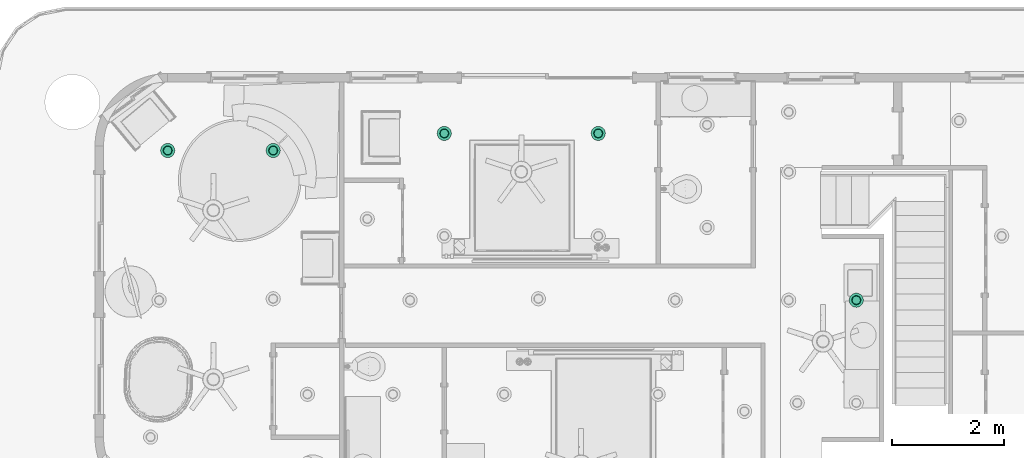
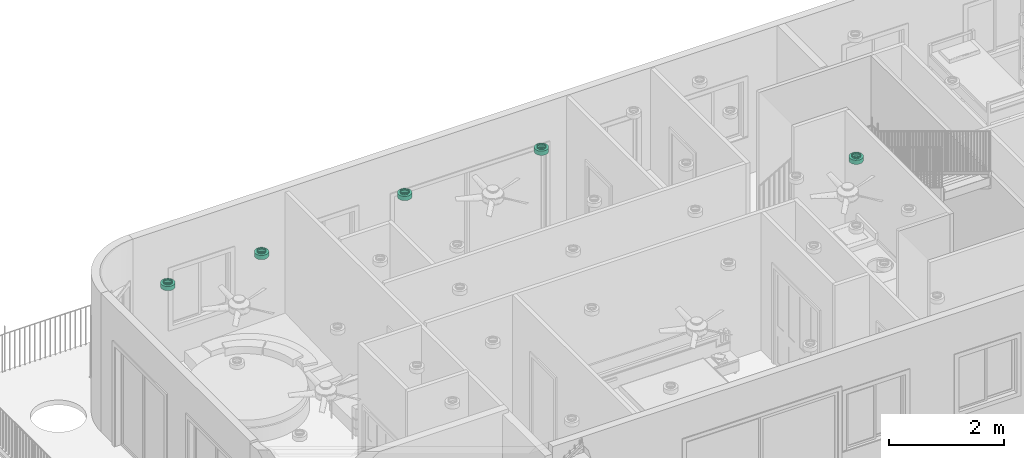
# One storey, part 17 of 28: 5 flow terminals.
"""IFC2X3 building model written with IfcOpenShell, lengths in feet."""

from ifc_helpers import new_model, entity, si_unit, converted_unit, derived_unit, direction, frame, origin, place, context, subcontext, project, spatial, faceted_brep, source, transform, mapped, material, material_list, type_object, type_shapes, element, save


model = new_model("IFC2X3")

# Units and contexts
model_context = context("Model", 3, precision=0.0001, world=origin(), true_north=direction((6.12303176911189e-17, 1.0)))
body_context = subcontext(model_context, "Body", "Model", "MODEL_VIEW")
ifc_project = project(units=[converted_unit("LENGTHUNIT", "FOOT", entity("IfcRatioMeasure", 0.3048), si_unit("LENGTHUNIT", "METRE"), dimensions=[1, 0, 0, 0, 0, 0, 0]), converted_unit("AREAUNIT", "SQUARE FOOT", entity("IfcRatioMeasure", 0.09290304), si_unit("AREAUNIT", "SQUARE_METRE"), dimensions=[2, 0, 0, 0, 0, 0, 0]), converted_unit("VOLUMEUNIT", "CUBIC FOOT", entity("IfcRatioMeasure", 0.028316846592), si_unit("VOLUMEUNIT", "CUBIC_METRE"), dimensions=[3, 0, 0, 0, 0, 0, 0]), converted_unit("PLANEANGLEUNIT", "DEGREE", entity("IfcRatioMeasure", 0.0174532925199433), si_unit("PLANEANGLEUNIT", "RADIAN"), dimensions=[0, 0, 0, 0, 0, 0, 0]), si_unit("MASSUNIT", "GRAM", prefix="KILO"), derived_unit("MASSDENSITYUNIT", [(si_unit("MASSUNIT", "GRAM", prefix="KILO"), 1), (si_unit("LENGTHUNIT", "METRE"), -3)]), si_unit("TIMEUNIT", "SECOND"), si_unit("FREQUENCYUNIT", "HERTZ"), si_unit("THERMODYNAMICTEMPERATUREUNIT", "DEGREE_CELSIUS"), derived_unit("THERMALTRANSMITTANCEUNIT", [(si_unit("MASSUNIT", "GRAM", prefix="KILO"), 1), (si_unit("THERMODYNAMICTEMPERATUREUNIT", "KELVIN"), -1), (si_unit("TIMEUNIT", "SECOND"), -3)]), derived_unit("VOLUMETRICFLOWRATEUNIT", [(si_unit("LENGTHUNIT", "METRE"), 3), (si_unit("TIMEUNIT", "SECOND"), -1)]), si_unit("ELECTRICCURRENTUNIT", "AMPERE"), si_unit("ELECTRICVOLTAGEUNIT", "VOLT"), si_unit("POWERUNIT", "WATT"), si_unit("FORCEUNIT", "NEWTON"), si_unit("ILLUMINANCEUNIT", "LUX"), si_unit("LUMINOUSFLUXUNIT", "LUMEN"), si_unit("LUMINOUSINTENSITYUNIT", "CANDELA"), derived_unit("USERDEFINED", [(si_unit("MASSUNIT", "GRAM", prefix="KILO"), -1), (si_unit("LENGTHUNIT", "METRE"), -2), (si_unit("TIMEUNIT", "SECOND"), 3), (si_unit("LUMINOUSFLUXUNIT", "LUMEN"), 1)]), derived_unit("LINEARVELOCITYUNIT", [(si_unit("LENGTHUNIT", "METRE"), 1), (si_unit("TIMEUNIT", "SECOND"), -1)]), si_unit("PRESSUREUNIT", "PASCAL"), derived_unit("USERDEFINED", [(si_unit("LENGTHUNIT", "METRE"), -2), (si_unit("MASSUNIT", "GRAM", prefix="KILO"), 1), (si_unit("TIMEUNIT", "SECOND"), -2)])], contexts=[model_context])

# Site, building, storey
site_placement = place(None, origin())
site = spatial("IfcSite", under=ifc_project, at=site_placement, Name="表面", CompositionType="ELEMENT")
building_placement = place(site_placement, origin())
building = spatial("IfcBuilding", under=site, at=building_placement, CompositionType="ELEMENT")
storey_placement = place(building_placement, frame((0.0, 0.0, 10.0)))
storey = spatial("IfcBuildingStorey", under=building, at=storey_placement, Name="Level 2", CompositionType="ELEMENT", Elevation=9.99999999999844)

# Flow terminals
ifc_material_1 = material(Name="Metal - Paint Finish - Dark Gray, Matte")
ifc_material_2 = material(Name="Glass - White, High Luminance")
ifc_material_list_1 = material_list([ifc_material_1, ifc_material_2])
ifc_material_list_2 = material_list([ifc_material_1, ifc_material_2])
light_fixture_type = type_object("IfcLightFixtureType", Name="100W - 277V", PredefinedType="NOTDEFINED", material=ifc_material_list_2)
shared_shape = source(origin(), body_context, "Body", "Brep", [
    faceted_brep([(0.557291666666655, 0.187326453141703, 0.374999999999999), (0.598651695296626, 0.245098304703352, 0.374999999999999), (0.558098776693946, 0.218001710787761, 0.374999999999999), (0.629345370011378, 0.247786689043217, 0.374999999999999), (0.517545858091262, 0.190905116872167, 0.374999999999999), (0.468904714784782, 0.155156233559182, 0.374999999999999), (0.625748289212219, 0.285651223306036, 0.374999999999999), (0.65284488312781, 0.326204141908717, 0.374999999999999), (0.676375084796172, 0.329244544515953, 0.374999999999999), (0.6623599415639, 0.374039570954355, 0.374999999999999), (0.671874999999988, 0.42187499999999, 0.374999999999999), (0.692708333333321, 0.421874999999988, 0.374999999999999), (0.676375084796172, 0.514505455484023, 0.374999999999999), (0.662359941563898, 0.469710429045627, 0.374999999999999), (0.652844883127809, 0.517545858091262, 0.374999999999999), (0.629345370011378, 0.595963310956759, 0.374999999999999), (0.625748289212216, 0.558098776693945, 0.374999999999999), (0.598651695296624, 0.598651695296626, 0.374999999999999), (0.557291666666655, 0.656423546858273, 0.374999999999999), (0.55809877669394, 0.625748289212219, 0.374999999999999), (0.517545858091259, 0.65284488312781, 0.374999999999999), (0.468904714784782, 0.688593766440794, 0.374999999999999), (0.469710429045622, 0.662359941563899, 0.374999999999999), (0.421874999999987, 0.671874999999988, 0.374999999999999), (0.374845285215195, 0.688593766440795, 0.374999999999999), (0.374039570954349, 0.662359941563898, 0.374999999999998), (0.326204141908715, 0.652844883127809, 0.374999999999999), (0.286458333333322, 0.656423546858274, 0.374999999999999), (0.285651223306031, 0.625748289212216, 0.374999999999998), (0.245098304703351, 0.598651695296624, 0.374999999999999), (0.214404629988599, 0.59596331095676, 0.374999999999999), (0.218001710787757, 0.558098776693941, 0.374999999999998), (0.190905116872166, 0.51754585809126, 0.374999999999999), (0.167374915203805, 0.514505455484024, 0.374999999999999), (0.181390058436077, 0.469710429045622, 0.374999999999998), (0.171874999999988, 0.421874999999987, 0.374999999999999), (0.151041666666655, 0.421874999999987, 0.374999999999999), (0.167374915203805, 0.329244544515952, 0.374999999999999), (0.181390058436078, 0.374039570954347, 0.374999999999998), (0.190905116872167, 0.326204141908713, 0.374999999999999), (0.214404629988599, 0.247786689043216, 0.374999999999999), (0.218001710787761, 0.28565122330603, 0.374999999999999), (0.245098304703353, 0.245098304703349, 0.374999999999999), (0.286458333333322, 0.187326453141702, 0.374999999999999), (0.285651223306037, 0.218001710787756, 0.374999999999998), (0.326204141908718, 0.190905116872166, 0.374999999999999), (0.374845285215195, 0.155156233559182, 0.374999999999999), (0.42187499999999, 0.171874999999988, 0.374999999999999), (0.374039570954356, 0.181390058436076, 0.374999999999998), (0.469710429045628, 0.181390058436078, 0.374999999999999), (0.557291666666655, 0.656423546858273, 0.291666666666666), (0.598651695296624, 0.598651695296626, 0.291666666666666), (0.55809877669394, 0.625748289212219, 0.291666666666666), (0.629345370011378, 0.595963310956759, 0.291666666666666), (0.517545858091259, 0.65284488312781, 0.291666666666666), (0.468904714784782, 0.688593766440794, 0.291666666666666), (0.625748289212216, 0.558098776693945, 0.291666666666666), (0.652844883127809, 0.517545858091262, 0.291666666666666), (0.676375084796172, 0.514505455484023, 0.291666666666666), (0.662359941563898, 0.469710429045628, 0.291666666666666), (0.671874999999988, 0.42187499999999, 0.291666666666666), (0.692708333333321, 0.421874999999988, 0.291666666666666), (0.676375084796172, 0.329244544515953, 0.291666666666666), (0.659760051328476, 0.36096904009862, 0.291666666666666), (0.65284488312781, 0.326204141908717, 0.291666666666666), (0.629345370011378, 0.247786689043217, 0.291666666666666), (0.625748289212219, 0.285651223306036, 0.291666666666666), (0.598651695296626, 0.245098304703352, 0.291666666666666), (0.557291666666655, 0.187326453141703, 0.291666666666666), (0.558098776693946, 0.218001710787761, 0.291666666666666), (0.517545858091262, 0.190905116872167, 0.291666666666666), (0.468904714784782, 0.155156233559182, 0.291666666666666), (0.469710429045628, 0.181390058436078, 0.291666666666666), (0.42187499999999, 0.171874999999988, 0.291666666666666), (0.374845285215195, 0.155156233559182, 0.291666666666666), (0.374039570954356, 0.181390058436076, 0.291666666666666), (0.326204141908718, 0.190905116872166, 0.291666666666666), (0.286458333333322, 0.187326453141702, 0.291666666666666), (0.285651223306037, 0.218001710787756, 0.291666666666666), (0.245098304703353, 0.245098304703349, 0.291666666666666), (0.214404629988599, 0.247786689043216, 0.291666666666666), (0.218001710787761, 0.28565122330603, 0.291666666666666), (0.190905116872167, 0.326204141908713, 0.291666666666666), (0.167374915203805, 0.329244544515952, 0.291666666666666), (0.181390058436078, 0.374039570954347, 0.291666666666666), (0.171874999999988, 0.421874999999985, 0.291666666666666), (0.151041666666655, 0.421874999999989, 0.291666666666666), (0.167374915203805, 0.514505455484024, 0.291666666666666), (0.183989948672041, 0.482780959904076, 0.291666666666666), (0.190905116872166, 0.51754585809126, 0.291666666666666), (0.214404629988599, 0.59596331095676, 0.291666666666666), (0.218001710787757, 0.558098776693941, 0.291666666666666), (0.245098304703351, 0.598651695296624, 0.291666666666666), (0.286458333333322, 0.656423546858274, 0.291666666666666), (0.285651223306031, 0.625748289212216, 0.291666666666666), (0.326204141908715, 0.652844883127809, 0.291666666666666), (0.374845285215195, 0.688593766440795, 0.291666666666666), (0.421874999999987, 0.671874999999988, 0.291666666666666), (0.374039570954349, 0.662359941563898, 0.291666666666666), (0.469710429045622, 0.662359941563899, 0.291666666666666)], [[[0, 1, 2]], [[1, 0, 3]], [[0, 2, 4]], [[4, 5, 0]], [[3, 6, 1]], [[3, 7, 6]], [[7, 3, 8]], [[8, 9, 7]], [[8, 10, 9]], [[10, 8, 11]], [[10, 11, 12]], [[12, 13, 10]], [[12, 14, 13]], [[15, 14, 12]], [[15, 16, 14]], [[15, 17, 16]], [[18, 17, 15]], [[18, 19, 17]], [[18, 20, 19]], [[21, 20, 18]], [[21, 22, 20]], [[21, 23, 22]], [[24, 23, 21]], [[24, 25, 23]], [[24, 26, 25]], [[27, 26, 24]], [[27, 28, 26]], [[27, 29, 28]], [[29, 27, 30]], [[30, 31, 29]], [[30, 32, 31]], [[32, 30, 33]], [[33, 34, 32]], [[33, 35, 34]], [[36, 35, 33]], [[37, 35, 36]], [[37, 38, 35]], [[37, 39, 38]], [[39, 37, 40]], [[40, 41, 39]], [[40, 42, 41]], [[42, 40, 43]], [[43, 44, 42]], [[43, 45, 44]], [[45, 43, 46]], [[47, 46, 5]], [[46, 47, 48]], [[46, 48, 45]], [[5, 4, 49]], [[5, 49, 47]], [[50, 51, 52]], [[51, 50, 53]], [[50, 52, 54]], [[54, 55, 50]], [[53, 56, 51]], [[53, 57, 56]], [[57, 53, 58]], [[58, 59, 57]], [[58, 60, 59]], [[60, 58, 61]], [[60, 61, 62]], [[62, 63, 60]], [[62, 64, 63]], [[65, 64, 62]], [[65, 66, 64]], [[65, 67, 66]], [[68, 67, 65]], [[68, 69, 67]], [[68, 70, 69]], [[71, 70, 68]], [[71, 72, 70]], [[71, 73, 72]], [[74, 73, 71]], [[74, 75, 73]], [[74, 76, 75]], [[77, 76, 74]], [[77, 78, 76]], [[77, 79, 78]], [[79, 77, 80]], [[80, 81, 79]], [[80, 82, 81]], [[82, 80, 83]], [[83, 84, 82]], [[83, 85, 84]], [[86, 85, 83]], [[87, 85, 86]], [[87, 88, 85]], [[87, 89, 88]], [[89, 87, 90]], [[90, 91, 89]], [[90, 92, 91]], [[92, 90, 93]], [[93, 94, 92]], [[93, 95, 94]], [[95, 93, 96]], [[97, 96, 55]], [[96, 97, 98]], [[96, 98, 95]], [[55, 54, 99]], [[55, 99, 97]], [[37, 36, 86, 83]], [[43, 40, 80, 77]], [[83, 80, 40, 37]], [[77, 74, 46, 43]], [[74, 71, 5, 46]], [[0, 5, 71, 68]], [[8, 3, 65, 62]], [[68, 65, 3, 0]], [[62, 61, 11, 8]], [[12, 11, 61, 58]], [[18, 15, 53, 50]], [[58, 53, 15, 12]], [[50, 55, 21, 18]], [[55, 96, 24, 21]], [[27, 24, 96, 93]], [[87, 33, 30, 90]], [[90, 30, 27, 93]], [[33, 87, 86, 36]], [[34, 35, 85, 88, 89, 32]], [[89, 91, 92, 29, 31, 32]], [[59, 60, 10, 13, 14, 57]], [[92, 94, 95, 26, 28, 29]], [[23, 25, 26, 95, 98, 97]], [[97, 99, 54, 20, 22, 23]], [[16, 17, 51, 56, 57, 14]], [[54, 52, 51, 17, 19, 20]], [[9, 10, 60, 63, 64, 7]], [[64, 66, 67, 1, 6, 7]], [[84, 85, 35, 38, 39, 82]], [[67, 69, 70, 4, 2, 1]], [[47, 49, 4, 70, 72, 73]], [[73, 75, 76, 45, 48, 47]], [[41, 42, 79, 81, 82, 39]], [[76, 78, 79, 42, 44, 45]]]),
    faceted_brep([(0.671874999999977, 0.421874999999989, 0.291666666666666), (0.838541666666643, 0.421874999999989, 0.291666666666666), (0.81814854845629, 0.550632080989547, 0.291666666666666), (0.818148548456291, 0.293117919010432, 0.291666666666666), (0.659760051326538, 0.360969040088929, 0.291666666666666), (0.662359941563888, 0.469710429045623, 0.291666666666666), (0.6528448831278, 0.326204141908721, 0.291666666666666), (0.758965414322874, 0.176964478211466, 0.291666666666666), (0.625748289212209, 0.28565122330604, 0.291666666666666), (0.598651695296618, 0.24509830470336, 0.291666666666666), (0.666785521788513, 0.084784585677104, 0.291666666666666), (0.558098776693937, 0.218001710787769, 0.291666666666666), (0.517545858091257, 0.190905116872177, 0.291666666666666), (0.550632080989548, 0.025601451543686, 0.291666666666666), (0.469710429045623, 0.181390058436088, 0.291666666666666), (0.421874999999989, 0.171874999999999, 0.291666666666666), (0.42187499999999, 0.00520833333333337, 0.291666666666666), (0.293117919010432, 0.0256014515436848, 0.291666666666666), (0.374039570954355, 0.181390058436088, 0.291666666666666), (0.326204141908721, 0.190905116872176, 0.291666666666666), (0.176964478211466, 0.0847845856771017, 0.291666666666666), (0.285651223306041, 0.218001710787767, 0.291666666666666), (0.24509830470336, 0.245098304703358, 0.291666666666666), (0.0847845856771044, 0.176964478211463, 0.291666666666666), (0.218001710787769, 0.285651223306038, 0.291666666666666), (0.190905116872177, 0.326204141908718, 0.291666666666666), (0.0256014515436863, 0.293117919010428, 0.291666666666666), (0.181390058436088, 0.374039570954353, 0.291666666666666), (0.171874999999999, 0.421874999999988, 0.291666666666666), (0.00520833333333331, 0.421874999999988, 0.291666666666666), (0.0256014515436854, 0.550632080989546, 0.291666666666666), (0.183989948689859, 0.482780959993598, 0.291666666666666), (0.190905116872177, 0.517545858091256, 0.291666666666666), (0.0847845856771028, 0.666785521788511, 0.291666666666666), (0.218001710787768, 0.558098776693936, 0.291666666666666), (0.245098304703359, 0.598651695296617, 0.291666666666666), (0.176964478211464, 0.758965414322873, 0.291666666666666), (0.285651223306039, 0.625748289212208, 0.291666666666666), (0.32620414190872, 0.652844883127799, 0.291666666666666), (0.29311791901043, 0.81814854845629, 0.291666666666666), (0.374039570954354, 0.662359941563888, 0.291666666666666), (0.421874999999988, 0.671874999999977, 0.291666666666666), (0.421874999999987, 0.838541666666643, 0.291666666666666), (0.550632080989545, 0.818148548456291, 0.291666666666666), (0.469710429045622, 0.662359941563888, 0.291666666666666), (0.517545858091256, 0.6528448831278, 0.291666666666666), (0.666785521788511, 0.758965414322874, 0.291666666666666), (0.558098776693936, 0.625748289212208, 0.291666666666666), (0.598651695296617, 0.598651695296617, 0.291666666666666), (0.758965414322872, 0.666785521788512, 0.291666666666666), (0.625748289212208, 0.558098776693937, 0.291666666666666), (0.652844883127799, 0.517545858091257, 0.291666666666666), (0.0256014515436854, 0.550632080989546, 0.0), (0.00520833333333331, 0.421874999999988, 0.0), (0.0847845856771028, 0.666785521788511, 0.0), (0.176964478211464, 0.758965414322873, 0.0), (0.29311791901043, 0.818148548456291, 0.0), (0.421874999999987, 0.838541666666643, 0.0), (0.550632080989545, 0.818148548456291, 0.0), (0.666785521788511, 0.758965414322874, 0.0), (0.758965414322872, 0.666785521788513, 0.0), (0.81814854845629, 0.550632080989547, 0.0), (0.838541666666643, 0.42187499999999, 0.0), (0.818148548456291, 0.293117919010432, 0.0), (0.666785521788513, 0.0847845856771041, 0.0), (0.550632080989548, 0.025601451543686, 0.0), (0.42187499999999, 0.00520833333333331, 0.0), (0.758965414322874, 0.176964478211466, 0.0), (0.293117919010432, 0.0256014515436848, 0.0), (0.176964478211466, 0.0847845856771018, 0.0), (0.0847845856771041, 0.176964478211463, 0.0), (0.025601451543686, 0.293117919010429, 0.0), (0.421874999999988, 0.421874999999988, 0.0), (0.808241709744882, 0.547413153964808, 0.0104166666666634), (0.421874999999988, 0.421874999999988, 0.0104166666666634), (0.828124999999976, 0.421874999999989, 0.0104166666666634), (0.7505381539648, 0.660662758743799, 0.0104166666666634), (0.660662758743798, 0.750538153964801, 0.0104166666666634), (0.547413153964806, 0.808241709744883, 0.0104166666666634), (0.421874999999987, 0.828124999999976, 0.0104166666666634), (0.296336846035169, 0.808241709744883, 0.0104166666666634), (0.183087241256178, 0.750538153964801, 0.0104166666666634), (0.0932118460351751, 0.660662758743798, 0.0104166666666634), (0.0355082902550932, 0.547413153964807, 0.0104166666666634), (0.0156249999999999, 0.421874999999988, 0.0104166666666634), (0.0355082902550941, 0.296336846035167, 0.0104166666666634), (0.0932118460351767, 0.183087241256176, 0.0104166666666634), (0.18308724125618, 0.093211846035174, 0.0104166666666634), (0.296336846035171, 0.0355082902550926, 0.0104166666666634), (0.42187499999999, 0.0156249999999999, 0.0104166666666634), (0.547413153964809, 0.0355082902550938, 0.0104166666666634), (0.6606627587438, 0.0932118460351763, 0.0104166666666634), (0.750538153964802, 0.183087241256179, 0.0104166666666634), (0.808241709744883, 0.296336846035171, 0.0104166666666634), (0.0355082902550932, 0.547413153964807, 0.281249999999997), (0.0156249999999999, 0.421874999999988, 0.281249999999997), (0.0932118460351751, 0.660662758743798, 0.281249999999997), (0.183087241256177, 0.750538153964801, 0.281249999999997), (0.296336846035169, 0.808241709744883, 0.281249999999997), (0.421874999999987, 0.828124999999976, 0.281249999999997), (0.660662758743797, 0.750538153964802, 0.281249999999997), (0.547413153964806, 0.808241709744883, 0.281249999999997), (0.808241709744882, 0.547413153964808, 0.281249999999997), (0.7505381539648, 0.660662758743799, 0.281249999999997), (0.828124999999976, 0.42187499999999, 0.281249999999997), (0.808241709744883, 0.296336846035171, 0.281249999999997), (0.547413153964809, 0.0355082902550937, 0.281249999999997), (0.6606627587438, 0.0932118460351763, 0.281249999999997), (0.42187499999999, 0.0156249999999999, 0.281249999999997), (0.750538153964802, 0.183087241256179, 0.281249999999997), (0.183087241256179, 0.0932118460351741, 0.281249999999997), (0.296336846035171, 0.0355082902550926, 0.281249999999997), (0.0355082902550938, 0.296336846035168, 0.281249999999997), (0.0932118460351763, 0.183087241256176, 0.281249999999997), (0.66145833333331, 0.421874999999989, 0.281249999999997), (0.650878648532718, 0.475062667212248, 0.281249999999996), (0.643221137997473, 0.513559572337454, 0.281249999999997), (0.650878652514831, 0.368687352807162, 0.281249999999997), (0.643221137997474, 0.330190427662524, 0.281249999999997), (0.617253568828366, 0.291327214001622, 0.281249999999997), (0.591285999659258, 0.25246400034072, 0.281249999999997), (0.552422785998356, 0.226496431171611, 0.281249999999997), (0.513559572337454, 0.200528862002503, 0.281249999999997), (0.467717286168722, 0.191410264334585, 0.281249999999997), (0.421874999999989, 0.182291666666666, 0.281249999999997), (0.376032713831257, 0.191410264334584, 0.281249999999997), (0.330190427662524, 0.200528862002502, 0.281249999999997), (0.291327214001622, 0.22649643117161, 0.281249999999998), (0.25246400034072, 0.252464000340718, 0.281249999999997), (0.226496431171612, 0.29132721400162, 0.281249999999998), (0.200528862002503, 0.330190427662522, 0.281249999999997), (0.191410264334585, 0.376032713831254, 0.281249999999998), (0.182291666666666, 0.421874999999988, 0.281249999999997), (0.192871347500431, 0.47506264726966, 0.281249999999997), (0.200528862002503, 0.513559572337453, 0.281249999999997), (0.226496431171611, 0.552422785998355, 0.281249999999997), (0.252464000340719, 0.591285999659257, 0.281249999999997), (0.291327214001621, 0.617253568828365, 0.281249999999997), (0.330190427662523, 0.643221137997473, 0.281249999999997), (0.376032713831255, 0.652339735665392, 0.281249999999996), (0.421874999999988, 0.66145833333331, 0.281249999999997), (0.46771728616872, 0.652339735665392, 0.281249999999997), (0.513559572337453, 0.643221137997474, 0.281249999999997), (0.591285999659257, 0.591285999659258, 0.281249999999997), (0.552422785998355, 0.617253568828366, 0.281249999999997), (0.617253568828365, 0.552422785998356, 0.281249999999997), (0.191410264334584, 0.467717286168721, 0.375), (0.182291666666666, 0.421874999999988, 0.375), (0.200528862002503, 0.513559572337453, 0.375), (0.252464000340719, 0.591285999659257, 0.375), (0.226496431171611, 0.552422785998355, 0.375), (0.330190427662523, 0.643221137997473, 0.375), (0.291327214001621, 0.617253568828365, 0.375), (0.421874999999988, 0.66145833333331, 0.375), (0.376032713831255, 0.652339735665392, 0.375), (0.552422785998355, 0.617253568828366, 0.375), (0.513559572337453, 0.643221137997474, 0.375), (0.591285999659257, 0.591285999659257, 0.375), (0.643221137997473, 0.513559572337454, 0.375), (0.617253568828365, 0.552422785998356, 0.375), (0.46771728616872, 0.652339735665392, 0.375), (0.652339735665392, 0.467717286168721, 0.375), (0.66145833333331, 0.421874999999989, 0.375), (0.652339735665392, 0.376032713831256, 0.375), (0.643221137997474, 0.330190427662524, 0.375), (0.591285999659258, 0.25246400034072, 0.375), (0.617253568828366, 0.291327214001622, 0.375), (0.513559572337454, 0.200528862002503, 0.375), (0.552422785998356, 0.226496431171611, 0.375), (0.421874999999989, 0.182291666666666, 0.375), (0.467717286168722, 0.191410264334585, 0.375), (0.200528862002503, 0.330190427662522, 0.375), (0.192871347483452, 0.368687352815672, 0.375), (0.25246400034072, 0.252464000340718, 0.375), (0.291327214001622, 0.22649643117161, 0.375), (0.330190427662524, 0.200528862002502, 0.375), (0.226496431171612, 0.29132721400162, 0.375), (0.376032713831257, 0.191410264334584, 0.375), (0.671874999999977, 0.421874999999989, 0.375), (0.659760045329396, 0.482780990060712, 0.375), (0.652844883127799, 0.517545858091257, 0.375), (0.662359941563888, 0.374039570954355, 0.375), (0.6528448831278, 0.326204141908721, 0.375), (0.625748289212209, 0.28565122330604, 0.375), (0.598651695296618, 0.24509830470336, 0.375), (0.558098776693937, 0.218001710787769, 0.375), (0.517545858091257, 0.190905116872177, 0.375), (0.469710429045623, 0.181390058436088, 0.375), (0.421874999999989, 0.171874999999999, 0.375), (0.374039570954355, 0.181390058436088, 0.375), (0.326204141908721, 0.190905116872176, 0.375), (0.285651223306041, 0.218001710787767, 0.375), (0.24509830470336, 0.245098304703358, 0.375), (0.218001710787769, 0.285651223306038, 0.375), (0.190905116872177, 0.326204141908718, 0.375), (0.183989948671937, 0.360969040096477, 0.375), (0.171874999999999, 0.421874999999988, 0.375), (0.181390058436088, 0.469710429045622, 0.375), (0.190905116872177, 0.517545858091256, 0.375), (0.218001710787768, 0.558098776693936, 0.375), (0.245098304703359, 0.598651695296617, 0.375), (0.285651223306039, 0.625748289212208, 0.375), (0.32620414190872, 0.652844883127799, 0.375), (0.374039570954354, 0.662359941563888, 0.375), (0.421874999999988, 0.671874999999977, 0.375), (0.469710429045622, 0.662359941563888, 0.375), (0.517545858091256, 0.6528448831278, 0.375), (0.558098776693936, 0.625748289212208, 0.375), (0.598651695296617, 0.598651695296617, 0.375), (0.625748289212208, 0.558098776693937, 0.375)], [[[0, 1, 2]], [[0, 3, 1]], [[3, 0, 4]], [[2, 5, 0]], [[3, 4, 6]], [[7, 3, 6]], [[7, 6, 8]], [[7, 8, 9]], [[10, 7, 9]], [[10, 9, 11]], [[10, 11, 12]], [[10, 12, 13]], [[13, 12, 14]], [[13, 14, 15]], [[16, 13, 15]], [[16, 15, 17]], [[17, 15, 18]], [[17, 18, 19]], [[17, 19, 20]], [[20, 19, 21]], [[20, 21, 22]], [[23, 20, 22]], [[23, 22, 24]], [[23, 24, 25]], [[25, 26, 23]], [[26, 25, 27]], [[26, 27, 28]], [[29, 26, 28]], [[30, 29, 28]], [[30, 28, 31]], [[30, 31, 32]], [[30, 32, 33]], [[33, 32, 34]], [[33, 34, 35]], [[36, 33, 35]], [[36, 35, 37]], [[36, 37, 38]], [[39, 36, 38]], [[39, 38, 40]], [[39, 40, 41]], [[42, 39, 41]], [[42, 41, 43]], [[43, 41, 44]], [[43, 44, 45]], [[46, 43, 45]], [[46, 45, 47]], [[46, 47, 48]], [[46, 48, 49]], [[49, 48, 50]], [[49, 50, 51]], [[49, 51, 2]], [[2, 51, 5]], [[52, 53, 29, 30]], [[30, 33, 54, 52]], [[36, 55, 54, 33]], [[55, 36, 39, 56]], [[56, 39, 42, 57]], [[58, 43, 46, 59]], [[60, 49, 2, 61]], [[46, 49, 60, 59]], [[61, 2, 1, 62]], [[43, 58, 57, 42]], [[1, 3, 63, 62]], [[64, 10, 13, 65]], [[16, 66, 65, 13]], [[63, 3, 7, 67]], [[10, 64, 67, 7]], [[68, 17, 20, 69]], [[70, 23, 26, 71]], [[20, 23, 70, 69]], [[71, 26, 29, 53]], [[17, 68, 66, 16]], [[62, 72, 61]], [[62, 63, 72]], [[72, 63, 67]], [[72, 67, 64]], [[72, 64, 65]], [[65, 66, 72]], [[68, 72, 66]], [[72, 68, 69]], [[72, 69, 70]], [[71, 72, 70]], [[72, 71, 53]], [[72, 53, 52]], [[72, 52, 54]], [[54, 55, 72]], [[72, 55, 56]], [[56, 57, 72]], [[72, 57, 58]], [[59, 72, 58]], [[72, 59, 60]], [[61, 72, 60]], [[73, 74, 75]], [[76, 74, 73]], [[76, 77, 74]], [[78, 74, 77]], [[78, 79, 74]], [[74, 79, 80]], [[80, 81, 74]], [[74, 81, 82]], [[82, 83, 74]], [[83, 84, 74]], [[84, 85, 74]], [[86, 74, 85]], [[86, 87, 74]], [[87, 88, 74]], [[89, 74, 88]], [[74, 89, 90]], [[90, 91, 74]], [[91, 92, 74]], [[92, 93, 74]], [[74, 93, 75]], [[94, 95, 84, 83]], [[82, 96, 94, 83]], [[96, 82, 81, 97]], [[81, 80, 98, 97]], [[98, 80, 79, 99]], [[100, 101, 78, 77]], [[102, 103, 76, 73]], [[77, 76, 103, 100]], [[104, 102, 73, 75]], [[79, 78, 101, 99]], [[105, 104, 75, 93]], [[106, 107, 91, 90]], [[108, 106, 90, 89]], [[93, 92, 109, 105]], [[109, 92, 91, 107]], [[110, 111, 88, 87]], [[112, 113, 86, 85]], [[87, 86, 113, 110]], [[95, 112, 85, 84]], [[89, 88, 111, 108]], [[102, 104, 114]], [[102, 114, 115]], [[102, 115, 116]], [[102, 116, 103]], [[104, 105, 114]], [[105, 117, 114]], [[105, 118, 117]], [[118, 105, 109]], [[109, 119, 118]], [[109, 120, 119]], [[120, 109, 107]], [[107, 121, 120]], [[107, 122, 121]], [[106, 122, 107]], [[106, 123, 122]], [[106, 124, 123]], [[124, 106, 108]], [[111, 124, 108]], [[111, 125, 124]], [[111, 126, 125]], [[110, 126, 111]], [[110, 127, 126]], [[110, 128, 127]], [[128, 110, 113]], [[113, 129, 128]], [[113, 130, 129]], [[113, 112, 130]], [[112, 131, 130]], [[112, 132, 131]], [[132, 112, 95]], [[132, 95, 94]], [[94, 133, 132]], [[94, 134, 133]], [[96, 134, 94]], [[96, 135, 134]], [[96, 136, 135]], [[136, 96, 97]], [[97, 137, 136]], [[97, 138, 137]], [[138, 97, 98]], [[98, 139, 138]], [[98, 140, 139]], [[140, 98, 99]], [[101, 140, 99]], [[101, 141, 140]], [[101, 142, 141]], [[142, 101, 100]], [[103, 143, 100]], [[100, 143, 144]], [[100, 144, 142]], [[103, 116, 145]], [[103, 145, 143]], [[146, 147, 132, 133, 134, 148]], [[136, 149, 150, 148, 134, 135]], [[136, 137, 138, 151, 152, 149]], [[151, 138, 139, 140, 153, 154]], [[155, 156, 142, 144, 143, 157]], [[116, 158, 159, 157, 143, 145]], [[153, 140, 141, 142, 156, 160]], [[161, 158, 116, 115, 114, 162]], [[163, 162, 114, 117, 118, 164]], [[120, 165, 166, 164, 118, 119]], [[120, 121, 122, 167, 168, 165]], [[123, 124, 169, 170, 167, 122]], [[171, 130, 131, 132, 147, 172]], [[128, 173, 174, 175, 126, 127]], [[128, 129, 130, 171, 176, 173]], [[175, 177, 169, 124, 125, 126]], [[162, 178, 179]], [[162, 179, 180]], [[180, 161, 162]], [[162, 181, 178]], [[162, 182, 181]], [[182, 162, 163]], [[182, 163, 164]], [[164, 183, 182]], [[164, 184, 183]], [[184, 164, 166]], [[184, 166, 165]], [[165, 185, 184]], [[165, 186, 185]], [[186, 165, 168]], [[186, 168, 167]], [[167, 187, 186]], [[167, 188, 187]], [[188, 167, 170]], [[188, 170, 169]], [[188, 169, 177]], [[188, 177, 175]], [[175, 189, 188]], [[175, 190, 189]], [[190, 175, 174]], [[190, 174, 173]], [[173, 191, 190]], [[173, 192, 191]], [[192, 173, 176]], [[192, 176, 171]], [[171, 193, 192]], [[171, 194, 193]], [[194, 171, 172]], [[194, 172, 147]], [[147, 195, 194]], [[147, 196, 195]], [[147, 197, 196]], [[147, 198, 197]], [[198, 147, 146]], [[198, 146, 148]], [[148, 199, 198]], [[148, 200, 199]], [[200, 148, 150]], [[200, 150, 149]], [[149, 201, 200]], [[149, 202, 201]], [[202, 149, 152]], [[202, 152, 151]], [[151, 203, 202]], [[151, 204, 203]], [[204, 151, 154]], [[204, 154, 153]], [[204, 153, 160]], [[204, 160, 156]], [[156, 205, 204]], [[156, 206, 205]], [[206, 156, 155]], [[206, 155, 157]], [[157, 207, 206]], [[157, 208, 207]], [[208, 157, 159]], [[208, 159, 158]], [[158, 180, 209]], [[180, 158, 161]], [[158, 209, 208]], [[198, 32, 31, 28, 196, 197]], [[199, 200, 35, 34, 32, 198]], [[200, 201, 202, 38, 37, 35]], [[40, 38, 202, 203, 204, 41]], [[47, 45, 206, 207, 208, 48]], [[178, 0, 5, 51, 180, 179]], [[208, 209, 180, 51, 50, 48]], [[45, 44, 41, 204, 205, 206]], [[182, 6, 4, 0, 178, 181]], [[183, 184, 9, 8, 6, 182]], [[184, 185, 186, 12, 11, 9]], [[187, 188, 15, 14, 12, 186]], [[195, 196, 28, 27, 25, 194]], [[191, 192, 22, 21, 19, 190]], [[192, 193, 194, 25, 24, 22]], [[19, 18, 15, 188, 189, 190]]]),
])
type_shapes(light_fixture_type, [shared_shape])
flow_terminal_1_placement = place(storey_placement, frame((-14.2901214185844, 13.0105186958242, 9.125)))
element("IfcFlowTerminal", 1, at=flow_terminal_1_placement, inside=storey, type_object=light_fixture_type, material=ifc_material_list_1, Name="Ceiling Light - Flat Round:100W - 277V", ObjectType="100W - 277V", context=body_context, shape_type="MappedRepresentation", body=[
    mapped(shared_shape, transform((0.0, 0.0, 0.0), scale=1.0)),
])
ifc_material_list_3 = material_list([ifc_material_1, ifc_material_2])
flow_terminal_2_placement = place(storey_placement, frame((-5.29012141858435, 13.0105186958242, 9.125)))
element("IfcFlowTerminal", 2, at=flow_terminal_2_placement, inside=storey, type_object=light_fixture_type, material=ifc_material_list_3, Name="Ceiling Light - Flat Round:100W - 277V", ObjectType="100W - 277V", context=body_context, shape_type="MappedRepresentation", body=[
    mapped(shared_shape, transform((0.0, 0.0, 0.0), scale=1.0)),
])
ifc_material_list_4 = material_list([ifc_material_1, ifc_material_2])
flow_terminal_3_placement = place(storey_placement, frame((-30.4567880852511, 12.0105186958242, 9.125)))
element("IfcFlowTerminal", 3, at=flow_terminal_3_placement, inside=storey, type_object=light_fixture_type, material=ifc_material_list_4, Name="Ceiling Light - Flat Round:100W - 277V", ObjectType="100W - 277V", context=body_context, shape_type="MappedRepresentation", body=[
    mapped(shared_shape, transform((0.0, 0.0, 0.0), scale=1.0)),
])
ifc_material_list_5 = material_list([ifc_material_1, ifc_material_2])
flow_terminal_4_placement = place(storey_placement, frame((-24.2901214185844, 12.0105186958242, 9.125)))
element("IfcFlowTerminal", 4, at=flow_terminal_4_placement, inside=storey, type_object=light_fixture_type, material=ifc_material_list_5, Name="Ceiling Light - Flat Round:100W - 277V", ObjectType="100W - 277V", context=body_context, shape_type="MappedRepresentation", body=[
    mapped(shared_shape, transform((0.0, 0.0, 0.0), scale=1.0)),
])
ifc_material_list_6 = material_list([ifc_material_1, ifc_material_2])
flow_terminal_5_placement = place(storey_placement, frame((9.7932119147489, 3.26051869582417, 9.125)))
element("IfcFlowTerminal", 5, at=flow_terminal_5_placement, inside=storey, type_object=light_fixture_type, material=ifc_material_list_6, Name="Ceiling Light - Flat Round:100W - 277V", ObjectType="100W - 277V", context=body_context, shape_type="MappedRepresentation", body=[
    mapped(shared_shape, transform((0.0, 0.0, 0.0), scale=1.0)),
])

save(model, "model.ifc")
